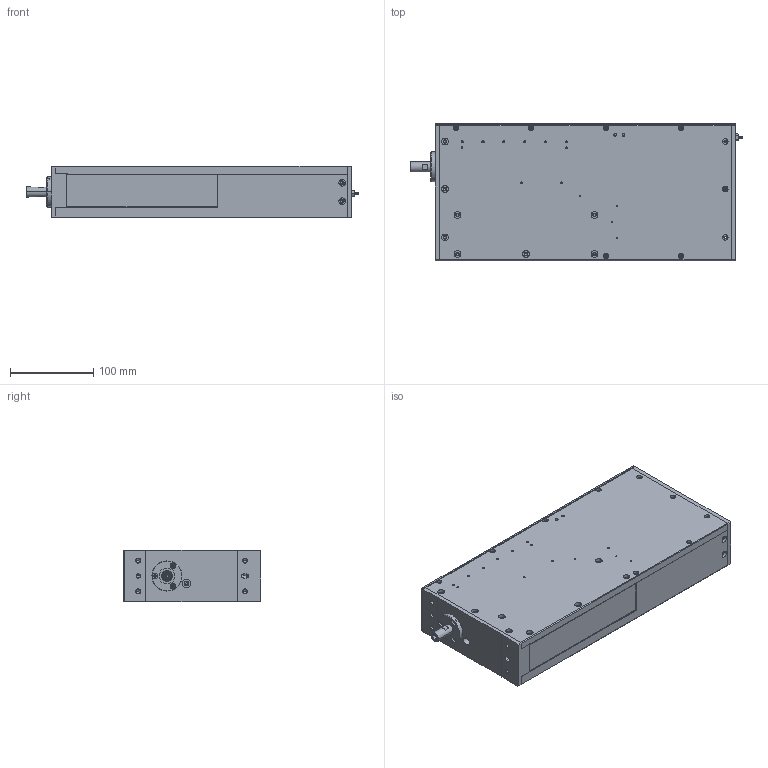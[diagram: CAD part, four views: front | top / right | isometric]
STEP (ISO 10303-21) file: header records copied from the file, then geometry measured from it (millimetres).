
FILE_DESCRIPTION (( 'STEP AP203' ), '1' );
FILE_NAME ('LBR62-050-XX-3_D_STD CON.STEP', '2020-07-24T22:58:41', ( '' ), ( '' ), 'SwSTEP 2.0', 'SolidWorks 2020', '' );
FILE_SCHEMA (( 'CONFIG_CONTROL_DESIGN' ));
Length unit declared in the file: millimetre
Products named in the file (17): LBR62-050-XX-3_D_STD CON; 230138-01_A; 406271-34_A_STEP; 110118-02_D; 230126-01_C; 48002-00_A; 110139-01_A; 22525-01_D; 47014-00_A; 56002-01, JACK SCREW, 4-40X3_16; 140273-01_A; 180109-01_B; 210129-01_A; 110120-01_C; 22525-06_A; 48003-02_A; 110121-01_B
Assembly tree (17 placements, depth 4):
  LBR62-050-XX-3_D_STD CON
    230138-01_A
    110118-02_D
    110121-01_B
    110120-01_C
    180109-01_B
    406271-34_A_STEP
      110139-01_A
      22525-06_A
        22525-01_D
      56002-01, JACK SCREW, 4-40X3_16  x2
      47014-00_A
    48003-02_A
    140273-01_A
    230126-01_C
    48002-00_A
    210129-01_A
Bounding box: 398 x 165 x 62.01 mm (x, y, z)
Volume: 1490758.7 mm3; surface area: 475323.3 mm2
Topology: 15 solids, 15 shells, 1359 faces, 3306 edges, 2035 vertices
Faces by surface type: cylinder 670, cone 346, plane 333, bspline 10
Entity records: 40650 total; most frequent: CARTESIAN_POINT 8000, DIRECTION 6888, ORIENTED_EDGE 6022, EDGE_CURVE 3011, AXIS2_PLACEMENT_3D 2730, VERTEX_POINT 1913, EDGE_LOOP 1660, VECTOR 1428
